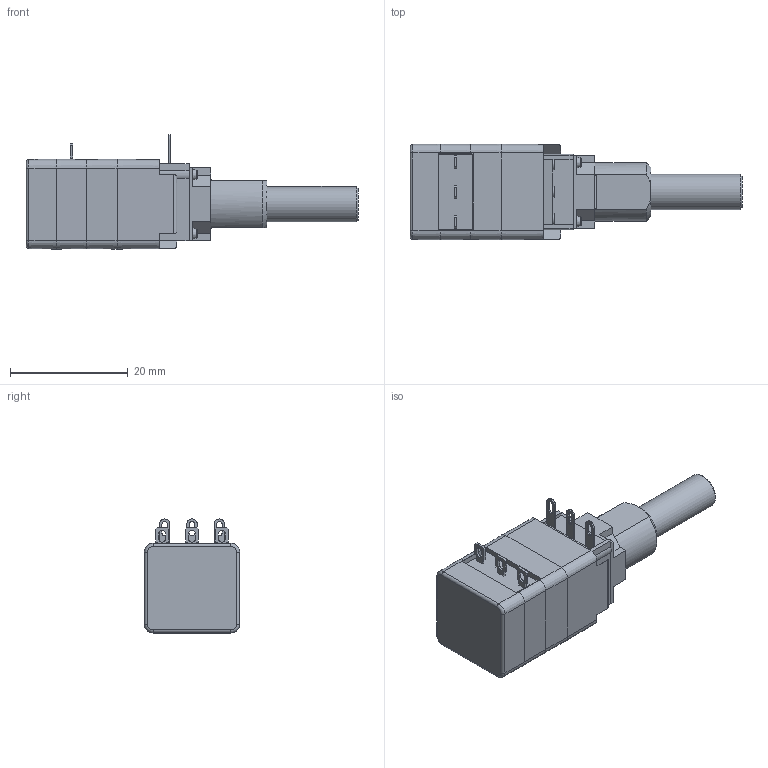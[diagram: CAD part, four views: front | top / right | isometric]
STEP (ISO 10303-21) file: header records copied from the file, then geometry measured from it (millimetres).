
FILE_DESCRIPTION(/* description */ ('Unknown'),/* implementation_level */ '2;1');
FILE_NAME(/* name */ 'P11M2V0FLRY00_____',/* time_stamp */ '2026-07-17T11:57:00+02:00',/* author */ ('Unknown'),/* organization */ ('Unknown'),/* preprocessor_version */ 'ST-DEVELOPER v19.4',/* originating_system */ 'Solid Edge',/* authorisation */ 'Unknown');
FILE_SCHEMA (('AUTOMOTIVE_DESIGN {1 0 10303 214 3 1 1}'));
Length unit declared in the file: millimetre
Products named in the file (1): P11M2V0FLRY00_____
Bounding box: 56.36 x 16.24 x 19.37 mm (x, y, z)
Volume: 4903.2 mm3; surface area: 7153.4 mm2
Topology: 9 solids, 9 shells, 597 faces, 1611 edges, 1052 vertices
Faces by surface type: plane 359, cylinder 158, cone 70, torus 10
Full cylindrical faces by diameter (mm): 1.5 x4, 1.55 x4, 1.6 x6, 4.1 x1, 5.25 x1, 6 x1, 6.1 x1, 6.4 x1, 7.44 x1, 10.6 x1, 11.35 x1
Entity records: 18825 total; most frequent: CARTESIAN_POINT 3337, DIRECTION 3149, ORIENTED_EDGE 3072, EDGE_CURVE 1536, AXIS2_PLACEMENT_3D 1066, VERTEX_POINT 1032, LINE 1017, VECTOR 1017
